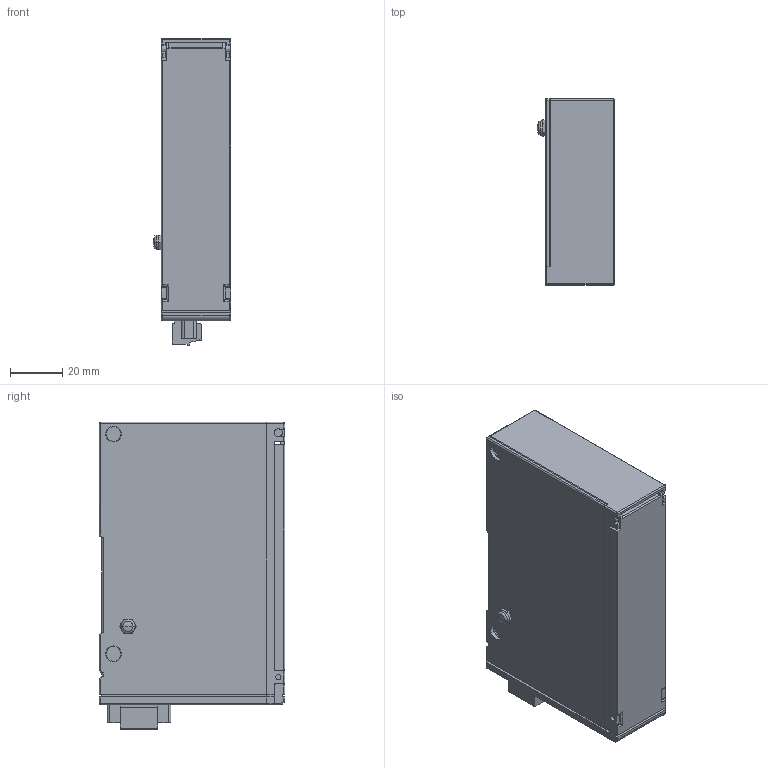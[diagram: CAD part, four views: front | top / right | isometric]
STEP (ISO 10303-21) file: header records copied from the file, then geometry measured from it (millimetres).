
FILE_DESCRIPTION( (''), '2;1');
FILE_NAME ('CVICAD02.288.YS7xL_11768.stp','2020-08-31T10:48:22',(''),(''),'spGate 12.6.6','','');
FILE_SCHEMA (('AUTOMOTIVE_DESIGN'));
Length unit declared in the file: millimetre
Products named in the file (4): Assembly; CVICAD02-prt0; CVICAD02-prt1; CVICAD02-prt2
Assembly tree (3 placements, depth 2):
  Assembly
    CVICAD02-prt0
    CVICAD02-prt1
    CVICAD02-prt2
Bounding box: 29.6 x 71 x 117.5 mm (x, y, z)
Volume: 195795.1 mm3; surface area: 48519.1 mm2
Topology: 3 solids, 3 shells, 412 faces, 1083 edges, 696 vertices
Faces by surface type: plane 296, cylinder 100, sphere 10, bspline 6
Entity records: 21273 total; most frequent: CARTESIAN_POINT 2399, ORIENTED_EDGE 2146, DIRECTION 2030, COLOUR_RGB 1488, PRESENTATION_STYLE_ASSIGNMENT 1488, STYLED_ITEM 1488, EDGE_CURVE 1073, DRAUGHTING_PRE_DEFINED_CURVE_FONT 1073
